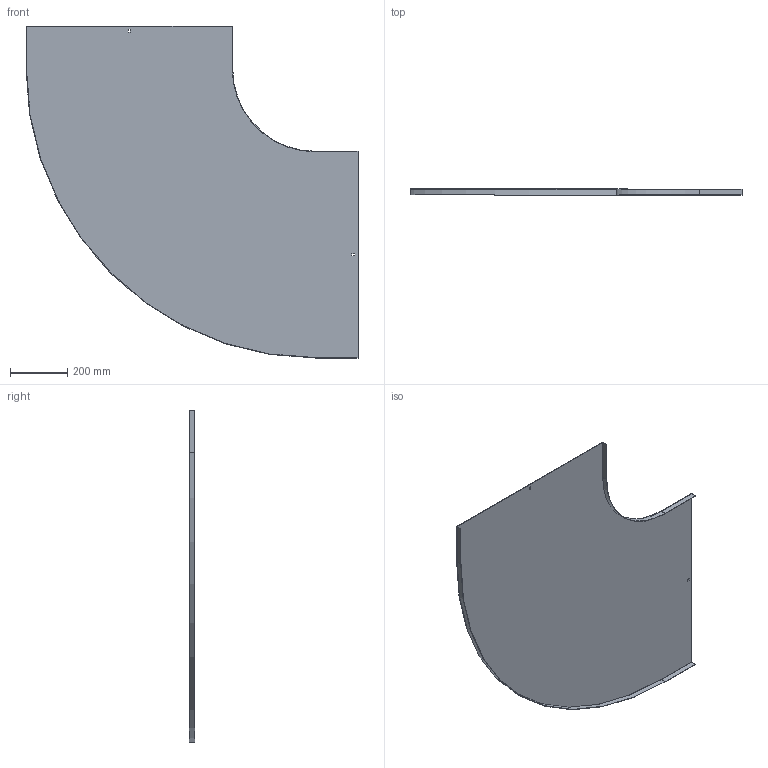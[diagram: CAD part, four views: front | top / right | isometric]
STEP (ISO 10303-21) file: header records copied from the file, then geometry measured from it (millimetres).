
FILE_DESCRIPTION (( 'STEP AP214' ), '1' );
FILE_NAME ('10N3P700.step', '2025-02-21T13:36:50', ( '' ), ( '' ), 'SwSTEP 2.0', 'SolidWorks 2023', '' );
FILE_SCHEMA (( 'AUTOMOTIVE_DESIGN' ));
Length unit declared in the file: millimetre
Products named in the file (1): 10N3P700
Bounding box: 1161.5 x 20 x 1161.5 mm (x, y, z)
Volume: 1505784.6 mm3; surface area: 2014048.8 mm2
Topology: 1 solids, 1 shells, 26 faces, 72 edges, 48 vertices
Faces by surface type: plane 22, cylinder 4
Entity records: 855 total; most frequent: CARTESIAN_POINT 147, ORIENTED_EDGE 144, DIRECTION 134, EDGE_CURVE 72, VECTOR 64, LINE 64, VERTEX_POINT 48, AXIS2_PLACEMENT_3D 35
